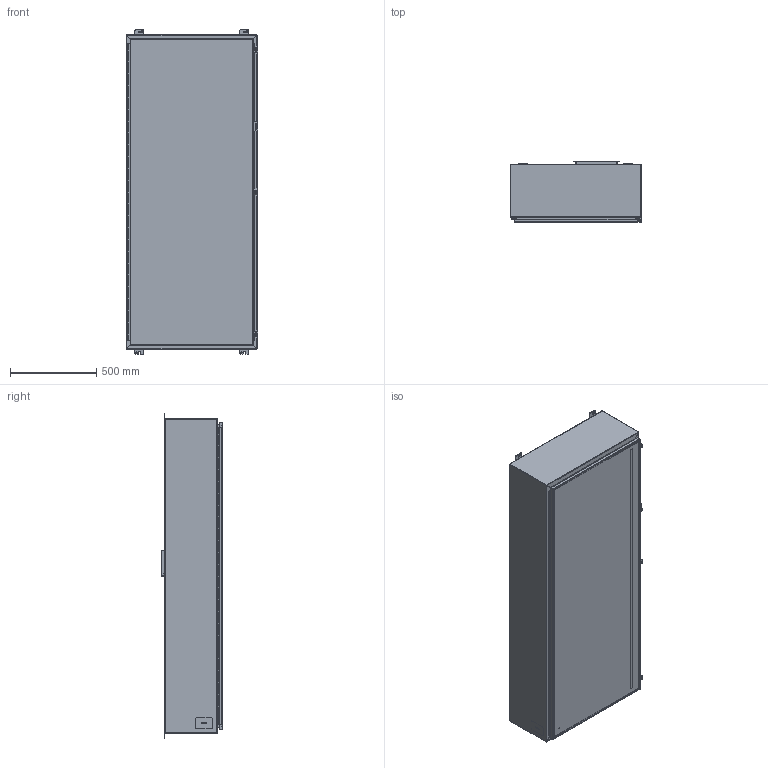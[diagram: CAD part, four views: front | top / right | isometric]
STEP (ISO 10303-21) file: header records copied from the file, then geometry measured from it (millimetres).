
FILE_DESCRIPTION(/* description */ ('Unknown'),/* implementation_level */ '2;1');
FILE_NAME(/* name */ '1418U12LP',/* time_stamp */ '2026-02-20T16:38:05-05:00',/* author */ ('Unknown'),/* organization */ ('Unknown'),/* preprocessor_version */ 'ST-DEVELOPER v18.104',/* originating_system */ 'Solid Edge',/* authorisation */ 'Unknown');
FILE_SCHEMA (('AUTOMOTIVE_DESIGN {1 0 10303 214 3 1 1}'));
Length unit declared in the file: millimetre
Products named in the file (31): 1418U12LP; STD26094; STD21878; COM42780; AKT90223; SPR20265; SCC19011; WAF25035; COM42667; COM40153-1; COM71781-1; COM40153-2; COM70219_oa_0; PNT11078; COM54746-68; COM53845-5; COM48502; FET07710; BUL10020; QLB30109; PKT99; KIT90256; LAB30005; NTS165305; NTS16535; KIT90519; WAF25059; NTS166105; COM48528; QLB20254
Assembly tree (45 placements, depth 3):
  1418U12LP
    STD26094  x6
    STD21878
    COM42780  x3
    AKT90223  x3
      SPR20265
      SCC19011
      WAF25035
      COM42667
    COM40153-1
    COM71781-1
      COM40153-2
      COM71781-1
      STD21878
      COM70219_oa_0
      PNT11078
      COM54746-68
      COM53845-5
    COM48502
    FET07710  x4
    BUL10020
    QLB30109
    PKT99
    KIT90256
      LAB30005
      NTS165305
      NTS16535
    KIT90519
      WAF25059
      NTS166105
    COM48528  x2
    QLB20254
    PNT11078
Bounding box: 765.17 x 358.77 x 1885.95 mm (x, y, z)
Volume: 9242692.2 mm3; surface area: 10144984.4 mm2
Topology: 45 solids, 46 shells, 1724 faces, 4532 edges, 2958 vertices
Faces by surface type: plane 1069, cylinder 530, bspline 69, torus 28, cone 26, sphere 2
Full cylindrical faces by diameter (mm): 2.54 x1, 3.175 x1, 4.976 x1, 5.41 x3, 6.198 x3, 6.35 x3, 6.731 x3, 7.137 x2, 7.722 x12, 7.805 x1, 7.938 x4, 8.382 x6, 9.525 x6, 9.906 x3, 11.113 x4, 11.303 x1, 12.7 x3, 16.51 x6, 25.4 x1, 88.9 x1
Entity records: 43148 total; most frequent: CARTESIAN_POINT 11954, ORIENTED_EDGE 6374, DIRECTION 6047, EDGE_CURVE 3187, VERTEX_POINT 2102, LINE 2041, VECTOR 2041, AXIS2_PLACEMENT_3D 2003
